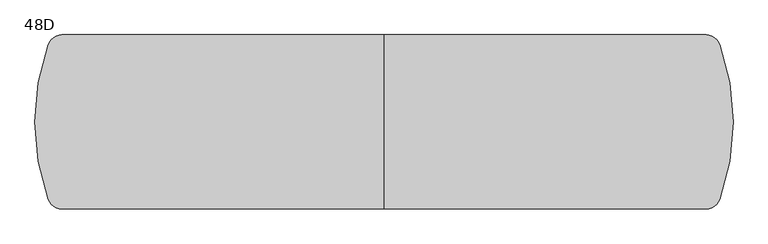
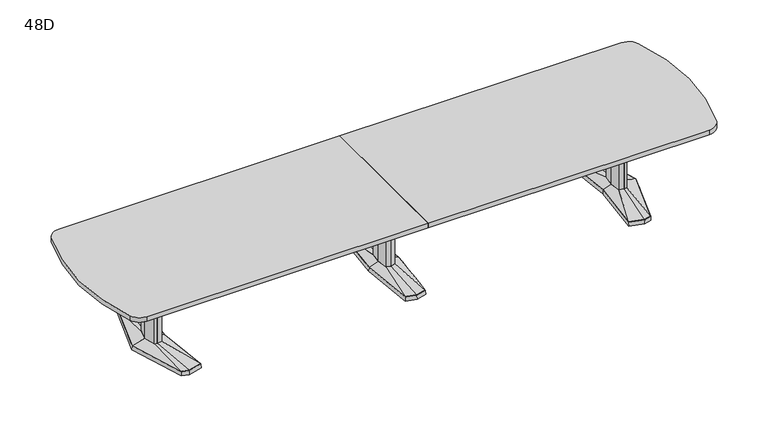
"""IFC4 building model written with IfcOpenShell, lengths in millimetres: furniture geometry, Coalesse_AM_Table_Conference_ETable2_SoftRadiused_16ft_AluminiumBase : 48D."""

from ifc_helpers import new_model, si_unit, point, frame, frame_2d, origin, place, context, project, spatial, polyline, circle_curve, trimmed, segment, composite_curve, outline, extrude, faceted_brep, source, transform, mapped, element, save
from ifc_brep_helpers import plane_surface, spline_surface, advanced_brep


def furniture_48d_80031b34(model_context):
    return source(origin(), model_context, "Body", "SolidModel", [
        faceted_brep([(-81.2333791, -433.8053819, 38.1), (0.0, -455.556576, 38.1), (81.2333791, -433.8053819, 38.1), (119.0564774, 0.0, 38.1), (81.2333791, 433.8053819, 38.1), (0.0, 455.556576, 38.1), (-81.2333791, 433.8053819, 38.1), (-119.0564774, 0.0, 38.1), (-82.7182795, -435.0512063, 3.175), (-120.65, 0.0, 3.175), (-82.7182795, 435.0512063, 3.175), (0.0, 457.2, 3.175), (82.7182795, 435.0512063, 3.175), (120.65, 0.0, 3.175), (82.7182795, -435.0512063, 3.175), (0.0, -457.2, 3.175), (0.0, 429.2617927, 3.175), (-77.9676806, 408.3850278, 3.175), (-74.7019821, 382.9646737, 3.175), (0.0, 402.9670094, 3.175), (74.7019821, 382.9646737, 3.175), (77.9676806, 408.3850278, 3.175), (0.0, -429.2617927, 3.175), (77.9676806, -408.3850278, 3.175), (74.7019821, -382.9646737, 3.175), (0.0, -402.9670094, 3.175), (-74.7019821, -382.9646737, 3.175), (-77.9676806, -408.3850278, 3.175), (-71.8574262, 114.6326257, 3.175), (-82.5426076, 0.0, 3.175), (-71.8574262, -114.6326257, 3.175), (0.0, -133.8761372, 3.175), (71.8574262, -114.6326257, 3.175), (82.5426076, 0.0, 3.175), (71.8574262, 114.6326257, 3.175), (0.0, 133.8761372, 3.175), (0.0, 429.2617927, 0.0), (77.9676806, 408.3850278, 0.0), (74.7019821, 382.9646737, 0.0), (0.0, 402.9670094, 0.0), (-74.7019821, 382.9646737, 0.0), (-77.9676806, 408.3850278, 0.0), (0.0, -429.2617927, 0.0), (-77.9676806, -408.3850278, 0.0), (-74.7019821, -382.9646737, 0.0), (0.0, -402.9670094, 0.0), (74.7019821, -382.9646737, 0.0), (77.9676806, -408.3850278, 0.0), (-71.8574262, 114.6326257, 0.0), (0.0, 133.8761372, 0.0), (71.8574262, 114.6326257, 0.0), (82.5426076, 0.0, 0.0), (71.8574262, -114.6326257, 0.0), (0.0, -133.8761372, 0.0), (-71.8574262, -114.6326257, 0.0), (-82.5426076, 0.0, 0.0)], [[[0, 1, 2, 3, 4, 5, 6, 7]], [[8, 9, 10, 11, 12, 13, 14, 15], [16, 17, 18, 19, 20, 21], [22, 23, 24, 25, 26, 27], [28, 29, 30, 31, 32, 33, 34, 35]], [[1, 0, 8, 15]], [[2, 1, 15, 14]], [[3, 2, 14, 13]], [[4, 3, 13, 12]], [[5, 4, 12, 11]], [[6, 5, 11, 10]], [[7, 6, 10, 9]], [[0, 7, 9, 8]], [[36, 37, 38, 39, 40, 41]], [[42, 43, 44, 45, 46, 47]], [[48, 49, 50, 51, 52, 53, 54, 55]], [[36, 41, 17, 16]], [[41, 40, 18, 17]], [[40, 39, 19, 18]], [[39, 38, 20, 19]], [[38, 37, 21, 20]], [[37, 36, 16, 21]], [[42, 47, 23, 22]], [[47, 46, 24, 23]], [[46, 45, 25, 24]], [[45, 44, 26, 25]], [[44, 43, 27, 26]], [[43, 42, 22, 27]], [[48, 55, 29, 28]], [[55, 54, 30, 29]], [[54, 53, 31, 30]], [[53, 52, 32, 31]], [[52, 51, 33, 32]], [[51, 50, 34, 33]], [[50, 49, 35, 34]], [[49, 48, 28, 35]]]),
        faceted_brep([(-36.3832834, 84.6900825, 698.5), (-44.2774487, 0.0, 698.5), (-36.3832834, -84.6900825, 698.5), (0.0, -94.4335728, 698.5), (36.3832834, -84.6900825, 698.5), (44.2774487, 0.0, 698.5), (36.3832834, 84.6900825, 698.5), (0.0, 94.4335728, 698.5), (-36.3832834, 84.6900825, 63.5), (0.0, 94.4335728, 63.5), (36.3832834, 84.6900825, 63.5), (44.2774487, 0.0, 63.5), (36.3832834, -84.6900825, 63.5), (0.0, -94.4335728, 63.5), (-36.3832834, -84.6900825, 63.5), (-44.2774487, 0.0, 63.5)], [[[0, 1, 2, 3, 4, 5, 6, 7]], [[8, 9, 10, 11, 12, 13, 14, 15]], [[1, 0, 8, 15]], [[2, 1, 15, 14]], [[3, 2, 14, 13]], [[4, 3, 13, 12]], [[5, 4, 12, 11]], [[6, 5, 11, 10]], [[7, 6, 10, 9]], [[0, 7, 9, 8]]]),
        advanced_brep(
        [(-36.3832834, 84.6900825, 63.5), (-44.2774487, 0.0, 63.5), (-36.3832834, -84.6900825, 63.5), (0.0, -94.4335728, 63.5), (36.3832834, -84.6900825, 63.5), (44.2774487, 0.0, 63.5), (36.3832834, 84.6900825, 63.5), (0.0, 94.4335728, 63.5), (-81.2333791, 433.8053819, 38.1), (0.0, 455.556576, 38.1), (81.2333791, 433.8053819, 38.1), (119.0564774, 0.0, 38.1), (81.2333791, -433.8053819, 38.1), (0.0, -455.556576, 38.1), (-81.2333791, -433.8053819, 38.1), (-119.0564774, 0.0, 38.1)],
        [
            (0, 1),
            (1, 2),
            (2, 3),
            (3, 4),
            (4, 5),
            (5, 6),
            (6, 7),
            (7, 0),
            (8, 9),
            (9, 10),
            (10, 11),
            (11, 12),
            (12, 13),
            (13, 14),
            (14, 15),
            (15, 8),
            (15, 1),
            (0, 8),
            (14, 2),
            (13, 3),
            (12, 4),
            (11, 5),
            (10, 6),
            (9, 7),
        ],
        [
            plane_surface(frame((0.0, 0.0, 63.5), z_axis=(0.0, 0.0, 1.0000000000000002), x_axis=(-0.9659615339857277, -0.25868574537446, 0.0))),
            plane_surface(frame((0.0, 0.0, 38.1), z_axis=(0.0, 0.0, -1.0000000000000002), x_axis=(-0.9659615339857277, -0.25868574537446, 0.0))),
            spline_surface(1, 1, [[(-81.2333791, 433.8053819, 38.1), (-36.3832834, 84.6900825, 63.5)], [(-119.0564774, 0.0, 38.1), (-44.2774487, 0.0, 63.5)]], [2, 2], [2, 2], [0.0, 1.0], [0.0, 1.0]),
            spline_surface(1, 1, [[(-119.0564774, 0.0, 38.1), (-44.2774487, 0.0, 63.5)], [(-81.2333791, -433.8053819, 38.1), (-36.3832834, -84.6900825, 63.5)]], [2, 2], [2, 2], [0.0, 1.0], [0.0, 1.0]),
            spline_surface(1, 1, [[(-81.2333791, -433.8053819, 38.1), (-36.3832834, -84.6900825, 63.5)], [(0.0, -455.556576, 38.1), (0.0, -94.4335728, 63.5)]], [2, 2], [2, 2], [0.0, 1.0], [0.0, 1.0]),
            spline_surface(1, 1, [[(0.0, -455.556576, 38.1), (0.0, -94.4335728, 63.5)], [(81.2333791, -433.8053819, 38.1), (36.3832834, -84.6900825, 63.5)]], [2, 2], [2, 2], [0.0, 1.0], [0.0, 1.0]),
            spline_surface(1, 1, [[(81.2333791, -433.8053819, 38.1), (36.3832834, -84.6900825, 63.5)], [(119.0564774, 0.0, 38.1), (44.2774487, 0.0, 63.5)]], [2, 2], [2, 2], [0.0, 1.0], [0.0, 1.0]),
            spline_surface(1, 1, [[(119.0564774, 0.0, 38.1), (44.2774487, 0.0, 63.5)], [(81.2333791, 433.8053819, 38.1), (36.3832834, 84.6900825, 63.5)]], [2, 2], [2, 2], [0.0, 1.0], [0.0, 1.0]),
            spline_surface(1, 1, [[(81.2333791, 433.8053819, 38.1), (36.3832834, 84.6900825, 63.5)], [(0.0, 455.556576, 38.1), (0.0, 94.4335728, 63.5)]], [2, 2], [2, 2], [0.0, 1.0], [0.0, 1.0]),
            spline_surface(1, 1, [[(0.0, 455.556576, 38.1), (0.0, 94.4335728, 63.5)], [(-81.2333791, 433.8053819, 38.1), (-36.3832834, 84.6900825, 63.5)]], [2, 2], [2, 2], [0.0, 1.0], [0.0, 1.0]),
        ],
        [
            (0, [[1, 2, 3, 4, 5, 6, 7, 8]]),
            (1, [[9, 10, 11, 12, 13, 14, 15, 16]]),
            (2, [[-16, 17, -1, 18]]),
            (3, [[-15, 19, -2, -17]]),
            (4, [[-14, 20, -3, -19]]),
            (5, [[-13, 21, -4, -20]]),
            (6, [[-12, 22, -5, -21]]),
            (7, [[-11, 23, -6, -22]]),
            (8, [[-10, 24, -7, -23]]),
            (9, [[-9, -18, -8, -24]]),
        ],
    ),
        faceted_brep([(1820.2306835, 455.5848221, 38.1), (1710.6531277, 426.2263816, 38.1), (1751.8163717, 0.0, 38.1), (1710.6531277, -426.2263816, 38.1), (1820.2306835, -455.5848221, 38.1), (1876.3570396, -440.5478297, 38.1), (2013.6684269, 0.0, 38.1), (1876.3570396, 440.5478297, 38.1), (1820.2306754, 457.2283104, 3.175), (1877.6124472, 441.8549756, 3.175), (2015.33125, 0.0, 3.175), (1877.6124472, -441.8549756, 3.175), (1820.2306754, -457.2283104, 3.175), (1708.94375, -427.4118891, 3.175), (1750.2214856, 0.0, 3.175), (1708.94375, 427.4118891, 3.175), (1823.820115, 428.3273875, 3.175), (1718.7718228, 402.1057253, 3.175), (1726.890518, 377.985069, 3.175), (1827.4095466, 401.0699529, 3.175), (1877.9691725, 387.524361, 3.175), (1877.1631061, 414.0360954, 3.175), (1823.820115, -428.3273875, 3.175), (1877.1631061, -414.0360954, 3.175), (1877.9691725, -387.524361, 3.175), (1827.4095466, -401.0699529, 3.175), (1726.890518, -377.985069, 3.175), (1718.7718228, -402.1057253, 3.175), (1950.4153621, 0.0, 3.175), (1918.1459611, 120.4193755, 3.175), (1869.4987222, 133.471665, 3.175), (1789.6180526, 119.4176561, 3.175), (1778.4868466, 0.0, 3.175), (1789.6180526, -119.4176561, 3.175), (1869.4987222, -133.471665, 3.175), (1918.1459611, -120.4193755, 3.175), (1823.820115, 428.3273875, 0.0), (1877.1631061, 414.0360954, 0.0), (1877.9691725, 387.524361, 0.0), (1827.4095466, 401.0699529, 0.0), (1726.890518, 377.985069, 0.0), (1718.7718228, 402.1057253, 0.0), (1823.820115, -428.3273875, 0.0), (1718.7718228, -402.1057253, 0.0), (1726.890518, -377.985069, 0.0), (1827.4095466, -401.0699529, 0.0), (1877.9691725, -387.524361, 0.0), (1877.1631061, -414.0360954, 0.0), (1950.4153621, 0.0, 0.0), (1918.1459611, -120.4193755, 0.0), (1869.4987222, -133.471665, 0.0), (1789.6180526, -119.4176561, 0.0), (1778.4868466, 0.0, 0.0), (1789.6180526, 119.4176561, 0.0), (1869.4987222, 133.471665, 0.0), (1918.1459611, 120.4193755, 0.0)], [[[0, 1, 2, 3, 4, 5, 6, 7]], [[8, 9, 10, 11, 12, 13, 14, 15], [16, 17, 18, 19, 20, 21], [22, 23, 24, 25, 26, 27], [28, 29, 30, 31, 32, 33, 34, 35]], [[7, 9, 8, 0]], [[6, 10, 9, 7]], [[5, 11, 10, 6]], [[4, 12, 11, 5]], [[3, 13, 12, 4]], [[2, 14, 13, 3]], [[1, 15, 14, 2]], [[0, 8, 15, 1]], [[36, 37, 38, 39, 40, 41]], [[42, 43, 44, 45, 46, 47]], [[48, 49, 50, 51, 52, 53, 54, 55]], [[36, 16, 21, 37]], [[37, 21, 20, 38]], [[38, 20, 19, 39]], [[39, 19, 18, 40]], [[40, 18, 17, 41]], [[41, 17, 16, 36]], [[42, 22, 27, 43]], [[43, 27, 26, 44]], [[44, 26, 25, 45]], [[45, 25, 24, 46]], [[46, 24, 23, 47]], [[47, 23, 22, 42]], [[48, 28, 35, 49]], [[49, 35, 34, 50]], [[50, 34, 33, 51]], [[51, 33, 32, 52]], [[52, 32, 31, 53]], [[53, 31, 30, 54]], [[54, 30, 29, 55]], [[55, 29, 28, 48]]]),
        faceted_brep([(1910.9710836, 0.0, 698.5), (1887.0358546, 89.3188359, 698.5), (1870.1824984, 93.8406728, 698.5), (1867.7826511, 94.4845635, 698.5), (1824.855146, 86.9320037, 698.5), (1816.7520056, 0.0, 698.5), (1824.855146, -86.9320037, 698.5), (1867.7826511, -94.4845635, 698.5), (1870.1824984, -93.8406728, 698.5), (1887.0358546, -89.3188359, 698.5), (1910.9710836, 0.0, 63.5), (1887.0358546, -89.3188359, 63.5), (1870.1824984, -93.8406728, 63.5), (1867.7826511, -94.4845635, 63.5), (1824.855146, -86.9320037, 63.5), (1816.7520056, 0.0, 63.5), (1824.855146, 86.9320037, 63.5), (1867.7826511, 94.4845635, 63.5), (1870.1824984, 93.8406728, 63.5), (1887.0358546, 89.3188359, 63.5)], [[[0, 1, 2, 3, 4, 5, 6, 7, 8, 9]], [[10, 11, 12, 13, 14, 15, 16, 17, 18, 19]], [[9, 11, 10, 0]], [[8, 12, 11, 9]], [[7, 13, 12, 8]], [[6, 14, 13, 7]], [[5, 15, 14, 6]], [[4, 16, 15, 5]], [[3, 17, 16, 4]], [[2, 18, 17, 3]], [[1, 19, 18, 2]], [[0, 10, 19, 1]]]),
        advanced_brep(
        [(1867.7826511, 94.4845635, 63.5), (1824.855146, 86.9320037, 63.5), (1816.7520056, 0.0, 63.5), (1824.855146, -86.9320037, 63.5), (1867.7826511, -94.4845635, 63.5), (1887.0358546, -89.3188359, 63.5), (1910.9710836, 0.0, 63.5), (1887.0358546, 89.3188359, 63.5), (1820.2306835, 455.5848221, 38.1), (1876.3570396, 440.5478297, 38.1), (2013.6684269, 0.0, 38.1), (1876.3570396, -440.5478297, 38.1), (1820.2306835, -455.5848221, 38.1), (1710.6531277, -426.2263816, 38.1), (1751.8163717, 0.0, 38.1), (1710.6531277, 426.2263816, 38.1)],
        [
            (0, 1),
            (1, 2),
            (2, 3),
            (3, 4),
            (4, 5),
            (5, 6),
            (6, 7),
            (7, 0),
            (8, 9),
            (9, 10),
            (10, 11),
            (11, 12),
            (12, 13),
            (13, 14),
            (14, 15),
            (15, 8),
            (8, 0),
            (7, 9),
            (6, 10),
            (5, 11),
            (4, 12),
            (3, 13),
            (2, 14),
            (1, 15),
        ],
        [
            plane_surface(frame((1860.8837991, 0.0, 63.5), z_axis=(0.0, 0.0, 1.0), x_axis=(-0.25884244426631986, -0.9659195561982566, 0.0))),
            plane_surface(frame((1822.4958125, 0.0, 38.1), z_axis=(0.0, 0.0, -1.0), x_axis=(-0.25884244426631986, -0.9659195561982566, 0.0))),
            spline_surface(1, 1, [[(1820.2306835, 455.5848221, 38.1), (1876.3570396, 440.5478297, 38.1)], [(1867.7826511, 94.4845635, 63.5), (1887.0358546, 89.3188359, 63.5)]], [2, 2], [2, 2], [0.0, 1.0], [0.0, 1.0]),
            spline_surface(1, 1, [[(1876.3570396, 440.5478297, 38.1), (2013.6684269, 0.0, 38.1)], [(1887.0358546, 89.3188359, 63.5), (1910.9710836, 0.0, 63.5)]], [2, 2], [2, 2], [0.0, 1.0], [0.0, 1.0]),
            spline_surface(1, 1, [[(2013.6684269, 0.0, 38.1), (1876.3570396, -440.5478297, 38.1)], [(1910.9710836, 0.0, 63.5), (1887.0358546, -89.3188359, 63.5)]], [2, 2], [2, 2], [0.0, 1.0], [0.0, 1.0]),
            spline_surface(1, 1, [[(1876.3570396, -440.5478297, 38.1), (1820.2306835, -455.5848221, 38.1)], [(1887.0358546, -89.3188359, 63.5), (1867.7826511, -94.4845635, 63.5)]], [2, 2], [2, 2], [0.0, 1.0], [0.0, 1.0]),
            spline_surface(1, 1, [[(1820.2306835, -455.5848221, 38.1), (1710.6531277, -426.2263816, 38.1)], [(1867.7826511, -94.4845635, 63.5), (1824.855146, -86.9320037, 63.5)]], [2, 2], [2, 2], [0.0, 1.0], [0.0, 1.0]),
            spline_surface(1, 1, [[(1710.6531277, -426.2263816, 38.1), (1751.8163717, 0.0, 38.1)], [(1824.855146, -86.9320037, 63.5), (1816.7520056, 0.0, 63.5)]], [2, 2], [2, 2], [0.0, 1.0], [0.0, 1.0]),
            spline_surface(1, 1, [[(1751.8163717, 0.0, 38.1), (1710.6531277, 426.2263816, 38.1)], [(1816.7520056, 0.0, 63.5), (1824.855146, 86.9320037, 63.5)]], [2, 2], [2, 2], [0.0, 1.0], [0.0, 1.0]),
            spline_surface(1, 1, [[(1710.6531277, 426.2263816, 38.1), (1820.2306835, 455.5848221, 38.1)], [(1824.855146, 86.9320037, 63.5), (1867.7826511, 94.4845635, 63.5)]], [2, 2], [2, 2], [0.0, 1.0], [0.0, 1.0]),
        ],
        [
            (0, [[1, 2, 3, 4, 5, 6, 7, 8]]),
            (1, [[9, 10, 11, 12, 13, 14, 15, 16]]),
            (2, [[17, -8, 18, -9]]),
            (3, [[-18, -7, 19, -10]]),
            (4, [[-19, -6, 20, -11]]),
            (5, [[-20, -5, 21, -12]]),
            (6, [[-21, -4, 22, -13]]),
            (7, [[-22, -3, 23, -14]]),
            (8, [[-23, -2, 24, -15]]),
            (9, [[-24, -1, -17, -16]]),
        ],
    ),
        faceted_brep([(-1820.2306835, 455.5848221, 38.1), (-1876.3570396, 440.5478297, 38.1), (-2013.6684269, 0.0, 38.1), (-1876.3570396, -440.5478297, 38.1), (-1820.2306835, -455.5848221, 38.1), (-1710.6531277, -426.2263816, 38.1), (-1751.8163717, 0.0, 38.1), (-1710.6531277, 426.2263816, 38.1), (-1820.2306754, 457.2283104, 3.175), (-1708.94375, 427.4118891, 3.175), (-1750.2214856, 0.0, 3.175), (-1708.94375, -427.4118891, 3.175), (-1820.2306754, -457.2283104, 3.175), (-1877.6124472, -441.8549756, 3.175), (-2015.33125, 0.0, 3.175), (-1877.6124472, 441.8549756, 3.175), (-1823.820115, 428.3273875, 3.175), (-1877.1631061, 414.0360954, 3.175), (-1877.9691725, 387.524361, 3.175), (-1827.4095466, 401.0699529, 3.175), (-1726.890518, 377.985069, 3.175), (-1718.7718228, 402.1057253, 3.175), (-1823.820115, -428.3273875, 3.175), (-1718.7718228, -402.1057253, 3.175), (-1726.890518, -377.985069, 3.175), (-1827.4095466, -401.0699529, 3.175), (-1877.9691725, -387.524361, 3.175), (-1877.1631061, -414.0360954, 3.175), (-1950.4153621, 0.0, 3.175), (-1918.1459611, -120.4193755, 3.175), (-1869.4987222, -133.471665, 3.175), (-1789.6180526, -119.4176561, 3.175), (-1778.4868466, 0.0, 3.175), (-1789.6180526, 119.4176561, 3.175), (-1869.4987222, 133.471665, 3.175), (-1918.1459611, 120.4193755, 3.175), (-1823.820115, 428.3273875, 0.0), (-1718.7718228, 402.1057253, 0.0), (-1726.890518, 377.985069, 0.0), (-1827.4095466, 401.0699529, 0.0), (-1877.9691725, 387.524361, 0.0), (-1877.1631061, 414.0360954, 0.0), (-1823.820115, -428.3273875, 0.0), (-1877.1631061, -414.0360954, 0.0), (-1877.9691725, -387.524361, 0.0), (-1827.4095466, -401.0699529, 0.0), (-1726.890518, -377.985069, 0.0), (-1718.7718228, -402.1057253, 0.0), (-1950.4153621, 0.0, 0.0), (-1918.1459611, 120.4193755, 0.0), (-1869.4987222, 133.471665, 0.0), (-1789.6180526, 119.4176561, 0.0), (-1778.4868466, 0.0, 0.0), (-1789.6180526, -119.4176561, 0.0), (-1869.4987222, -133.471665, 0.0), (-1918.1459611, -120.4193755, 0.0)], [[[0, 1, 2, 3, 4, 5, 6, 7]], [[8, 9, 10, 11, 12, 13, 14, 15], [16, 17, 18, 19, 20, 21], [22, 23, 24, 25, 26, 27], [28, 29, 30, 31, 32, 33, 34, 35]], [[1, 0, 8, 15]], [[2, 1, 15, 14]], [[3, 2, 14, 13]], [[4, 3, 13, 12]], [[5, 4, 12, 11]], [[6, 5, 11, 10]], [[7, 6, 10, 9]], [[0, 7, 9, 8]], [[36, 37, 38, 39, 40, 41]], [[42, 43, 44, 45, 46, 47]], [[48, 49, 50, 51, 52, 53, 54, 55]], [[36, 41, 17, 16]], [[41, 40, 18, 17]], [[40, 39, 19, 18]], [[39, 38, 20, 19]], [[38, 37, 21, 20]], [[37, 36, 16, 21]], [[42, 47, 23, 22]], [[47, 46, 24, 23]], [[46, 45, 25, 24]], [[45, 44, 26, 25]], [[44, 43, 27, 26]], [[43, 42, 22, 27]], [[48, 55, 29, 28]], [[55, 54, 30, 29]], [[54, 53, 31, 30]], [[53, 52, 32, 31]], [[52, 51, 33, 32]], [[51, 50, 34, 33]], [[50, 49, 35, 34]], [[49, 48, 28, 35]]]),
        faceted_brep([(-1910.9710836, 0.0, 698.5), (-1887.0358546, -89.3188359, 698.5), (-1870.1824984, -93.8406728, 698.5), (-1867.7826511, -94.4845635, 698.5), (-1824.855146, -86.9320037, 698.5), (-1816.7520056, 0.0, 698.5), (-1824.855146, 86.9320037, 698.5), (-1867.7826511, 94.4845635, 698.5), (-1870.1824984, 93.8406728, 698.5), (-1887.0358546, 89.3188359, 698.5), (-1910.9710836, 0.0, 63.5), (-1887.0358546, 89.3188359, 63.5), (-1870.1824984, 93.8406728, 63.5), (-1867.7826511, 94.4845635, 63.5), (-1824.855146, 86.9320037, 63.5), (-1816.7520056, 0.0, 63.5), (-1824.855146, -86.9320037, 63.5), (-1867.7826511, -94.4845635, 63.5), (-1870.1824984, -93.8406728, 63.5), (-1887.0358546, -89.3188359, 63.5)], [[[0, 1, 2, 3, 4, 5, 6, 7, 8, 9]], [[10, 11, 12, 13, 14, 15, 16, 17, 18, 19]], [[1, 0, 10, 19]], [[2, 1, 19, 18]], [[3, 2, 18, 17]], [[4, 3, 17, 16]], [[5, 4, 16, 15]], [[6, 5, 15, 14]], [[7, 6, 14, 13]], [[8, 7, 13, 12]], [[9, 8, 12, 11]], [[0, 9, 11, 10]]]),
        advanced_brep(
        [(-1867.7826511, 94.4845635, 63.5), (-1887.0358546, 89.3188359, 63.5), (-1910.9710836, 0.0, 63.5), (-1887.0358546, -89.3188359, 63.5), (-1867.7826511, -94.4845635, 63.5), (-1824.855146, -86.9320037, 63.5), (-1816.7520056, 0.0, 63.5), (-1824.855146, 86.9320037, 63.5), (-1820.2306835, 455.5848221, 38.1), (-1710.6531277, 426.2263816, 38.1), (-1751.8163717, 0.0, 38.1), (-1710.6531277, -426.2263816, 38.1), (-1820.2306835, -455.5848221, 38.1), (-1876.3570396, -440.5478297, 38.1), (-2013.6684269, 0.0, 38.1), (-1876.3570396, 440.5478297, 38.1)],
        [
            (0, 1),
            (1, 2),
            (2, 3),
            (3, 4),
            (4, 5),
            (5, 6),
            (6, 7),
            (7, 0),
            (8, 9),
            (9, 10),
            (10, 11),
            (11, 12),
            (12, 13),
            (13, 14),
            (14, 15),
            (15, 8),
            (15, 1),
            (0, 8),
            (14, 2),
            (13, 3),
            (12, 4),
            (11, 5),
            (10, 6),
            (9, 7),
        ],
        [
            plane_surface(frame((-1860.8837991, 0.0, 63.5), z_axis=(0.0, 0.0, 1.0), x_axis=(0.25884244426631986, -0.9659195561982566, 0.0))),
            plane_surface(frame((-1822.4958125, 0.0, 38.1), z_axis=(0.0, 0.0, -1.0), x_axis=(0.25884244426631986, -0.9659195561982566, 0.0))),
            spline_surface(1, 1, [[(-1820.2306835, 455.5848221, 38.1), (-1867.7826511, 94.4845635, 63.5)], [(-1876.3570396, 440.5478297, 38.1), (-1887.0358546, 89.3188359, 63.5)]], [2, 2], [2, 2], [0.0, 1.0], [0.0, 1.0]),
            spline_surface(1, 1, [[(-1876.3570396, 440.5478297, 38.1), (-1887.0358546, 89.3188359, 63.5)], [(-2013.6684269, 0.0, 38.1), (-1910.9710836, 0.0, 63.5)]], [2, 2], [2, 2], [0.0, 1.0], [0.0, 1.0]),
            spline_surface(1, 1, [[(-2013.6684269, 0.0, 38.1), (-1910.9710836, 0.0, 63.5)], [(-1876.3570396, -440.5478297, 38.1), (-1887.0358546, -89.3188359, 63.5)]], [2, 2], [2, 2], [0.0, 1.0], [0.0, 1.0]),
            spline_surface(1, 1, [[(-1876.3570396, -440.5478297, 38.1), (-1887.0358546, -89.3188359, 63.5)], [(-1820.2306835, -455.5848221, 38.1), (-1867.7826511, -94.4845635, 63.5)]], [2, 2], [2, 2], [0.0, 1.0], [0.0, 1.0]),
            spline_surface(1, 1, [[(-1820.2306835, -455.5848221, 38.1), (-1867.7826511, -94.4845635, 63.5)], [(-1710.6531277, -426.2263816, 38.1), (-1824.855146, -86.9320037, 63.5)]], [2, 2], [2, 2], [0.0, 1.0], [0.0, 1.0]),
            spline_surface(1, 1, [[(-1710.6531277, -426.2263816, 38.1), (-1824.855146, -86.9320037, 63.5)], [(-1751.8163717, 0.0, 38.1), (-1816.7520056, 0.0, 63.5)]], [2, 2], [2, 2], [0.0, 1.0], [0.0, 1.0]),
            spline_surface(1, 1, [[(-1751.8163717, 0.0, 38.1), (-1816.7520056, 0.0, 63.5)], [(-1710.6531277, 426.2263816, 38.1), (-1824.855146, 86.9320037, 63.5)]], [2, 2], [2, 2], [0.0, 1.0], [0.0, 1.0]),
            spline_surface(1, 1, [[(-1710.6531277, 426.2263816, 38.1), (-1824.855146, 86.9320037, 63.5)], [(-1820.2306835, 455.5848221, 38.1), (-1867.7826511, 94.4845635, 63.5)]], [2, 2], [2, 2], [0.0, 1.0], [0.0, 1.0]),
        ],
        [
            (0, [[1, 2, 3, 4, 5, 6, 7, 8]]),
            (1, [[9, 10, 11, 12, 13, 14, 15, 16]]),
            (2, [[-16, 17, -1, 18]]),
            (3, [[-15, 19, -2, -17]]),
            (4, [[-14, 20, -3, -19]]),
            (5, [[-13, 21, -4, -20]]),
            (6, [[-12, 22, -5, -21]]),
            (7, [[-11, 23, -6, -22]]),
            (8, [[-10, 24, -7, -23]]),
            (9, [[-9, -18, -8, -24]]),
        ],
    ),
        extrude(outline(composite_curve([segment(trimmed(circle_curve(frame_2d((2249.2540251, 508.0)), 101.6), [point((2249.2540251, 609.6))], [point((2344.9932067, 542.0083682))], False, "CARTESIAN"), True, "CONTINUOUS"), segment(trimmed(circle_curve(frame_2d((819.15, 0.0)), 1619.25), [point((2344.9932067, 542.0083682))], [point((2344.9932067, -542.0083682))], False, "CARTESIAN"), True, "CONTINUOUS"), segment(trimmed(circle_curve(frame_2d((2249.2540251, -508.0)), 101.6), [point((2344.9932067, -542.0083682))], [point((2249.2540251, -609.6))], False, "CARTESIAN"), True, "CONTINUOUS"), segment(polyline([(2249.2540251, -609.6), (0.0, -609.6), (0.0, 609.6), (2249.2540251, 609.6)]), True, "CONTINUOUS")], self_intersect=False)), frame((0.0, 0.0, 698.5), z_axis=(0.0, 0.0, 1.0), x_axis=(1.0, 0.0, 0.0)), (0.0, 0.0, 1.0), 38.1),
        extrude(outline(composite_curve([segment(polyline([(0.0, 609.6), (0.0, -609.6), (-2249.2540251, -609.6)]), True, "CONTINUOUS"), segment(trimmed(circle_curve(frame_2d((-2249.2540251, -508.0)), 101.6), [point((-2249.2540251, -609.6))], [point((-2344.9932067, -542.0083682))], False, "CARTESIAN"), True, "CONTINUOUS"), segment(trimmed(circle_curve(frame_2d((-819.15, 0.0)), 1619.25), [point((-2344.9932067, -542.0083682))], [point((-2344.9932067, 542.0083682))], False, "CARTESIAN"), True, "CONTINUOUS"), segment(trimmed(circle_curve(frame_2d((-2249.2540251, 508.0)), 101.6), [point((-2344.9932067, 542.0083682))], [point((-2249.2540251, 609.6))], False, "CARTESIAN"), True, "CONTINUOUS"), segment(polyline([(-2249.2540251, 609.6), (0.0, 609.6)]), True, "CONTINUOUS")], self_intersect=False)), frame((0.0, 0.0, 698.5), z_axis=(0.0, 0.0, 1.0), x_axis=(1.0, 0.0, 0.0)), (0.0, 0.0, 1.0), 38.1),
        extrude(outline(polyline([(96.8375, 698.5), (103.1875, 698.5), (103.1875, 476.25), (-103.1875, 476.25), (-103.1875, 698.5), (-96.8375, 698.5), (-96.8375, 482.6), (96.8375, 482.6), (96.8375, 698.5)])), frame((-1816.89375, 0.0, 0.0), z_axis=(1.0, 0.0, 0.0), x_axis=(0.0, 1.0, 0.0)), (0.0, 0.0, 1.0), 3633.7875),
    ])


if __name__ == "__main__":
    model = new_model("IFC4")
    model_context = context("Model", 3, world=origin())
    ifc_project = project(units=[si_unit("LENGTHUNIT", "METRE", prefix="MILLI")], contexts=[model_context])
    site = spatial("IfcSite", under=ifc_project)
    building = spatial("IfcBuilding", under=site)
    placement = place(None, origin())
    furniture_48d_shape = furniture_48d_80031b34(model_context)
    element("IfcFurniture", 1, ObjectType="Coalesse_AM_Table_Conference_ETable2_SoftRadiused_16ft_AluminiumBase : 48D", at=placement, inside=building, context=model_context, shape_type="MappedRepresentation", body=[
        mapped(furniture_48d_shape, transform((0.0, 0.0, 0.0), x_axis=(1.0, 0.0, 0.0), y_axis=(0.0, 1.0, 0.0), z_axis=(0.0, 0.0, 1.0))),
    ])
    save(model, "model.ifc")
